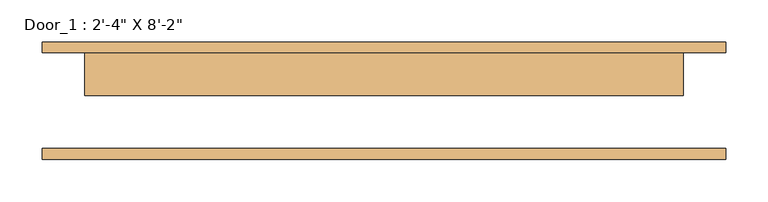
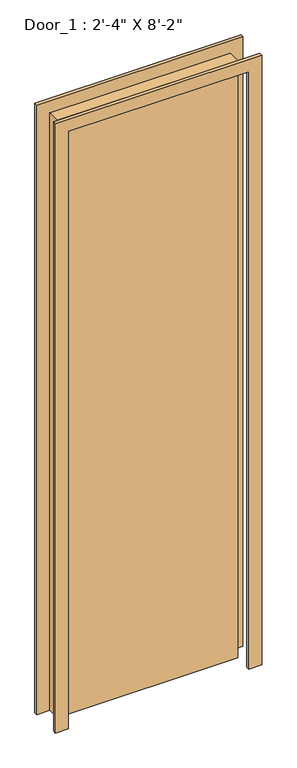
"""IFC4 building model written with IfcOpenShell, lengths in millimetres: door geometry."""

import ifcopenshell
import ifcopenshell.guid

model = None  # the IFC model being written
_history = None  # IfcOwnerHistory: only IFC2X3 demands one
_inside = {}  # id of a spatial element -> (the spatial element, [elements in it])
_under = {}  # id of a project, library or spatial element -> (it, [spatial elements below it])
_declared = {}  # id of a project -> (the project, [libraries it declares])
_typed = {}  # id of a type object -> (the type object, [elements of that type])
_made_of = {}  # id of a material, layer set ... -> (it, [elements and type objects made of it])


def new_model(schema):
    """Start an empty IFC model of exactly this schema.

    Asked for "IFC4X3", IfcOpenShell would pick the latest addendum, in which some entities
    have other attributes; the version numbers below select the first issue.
    IFC2X3 requires an IfcOwnerHistory on every rooted entity: one is made here for all.
    """
    global model, _history
    if schema == "IFC4X3":
        model = ifcopenshell.file(schema_version=(4, 3, 0, 0))
    else:
        model = ifcopenshell.file(schema=schema)
    _inside.clear()
    _under.clear()
    _declared.clear()
    _typed.clear()
    _made_of.clear()
    _history = None
    if model.schema == "IFC2X3":
        org = make("IfcOrganization", Name="unknown")
        user = make(
            "IfcPersonAndOrganization",
            ThePerson=make("IfcPerson", FamilyName="unknown"),
            TheOrganization=org,
        )
        app = make(
            "IfcApplication",
            ApplicationDeveloper=org,
            Version="unknown",
            ApplicationFullName="unknown",
            ApplicationIdentifier="unknown",
        )
        _history = make(
            "IfcOwnerHistory",
            OwningUser=user,
            OwningApplication=app,
            ChangeAction="ADDED",
            CreationDate=0,
        )
    return model


def make(cls, **values):
    """One entity of the class cls with the attributes given. An attribute that is None is left unset."""
    return model.create_entity(
        cls, **{name: value for name, value in values.items() if value is not None}
    )


def rooted(cls, **values):
    """An entity with a GlobalId (a new one), such as an element, a storey or a relation."""
    return make(cls, GlobalId=ifcopenshell.guid.new(), OwnerHistory=_history, **values)


def si_unit(unit_type, name, prefix=None):
    """IfcSIUnit, for example si_unit("LENGTHUNIT", "METRE", prefix="MILLI")."""
    return make("IfcSIUnit", UnitType=unit_type, Prefix=prefix, Name=name)


def assignment(units):
    """IfcUnitAssignment: the units of a project."""
    return None if units is None else make("IfcUnitAssignment", Units=units)


def point(xyz):
    """IfcCartesianPoint."""
    return None if xyz is None else make("IfcCartesianPoint", Coordinates=xyz)


def direction(xyz):
    """IfcDirection."""
    return None if xyz is None else make("IfcDirection", DirectionRatios=xyz)


def frame(location, z_axis=None, x_axis=None):
    """IfcAxis2Placement3D, a coordinate frame: its origin and axes. An axis left out is left unset."""
    return make(
        "IfcAxis2Placement3D",
        Location=point(location),
        Axis=direction(z_axis),
        RefDirection=direction(x_axis),
    )


def origin():
    """The frame at (0, 0, 0) with its axes left unset."""
    return frame((0.0, 0.0, 0.0))


def origin_with_axes():
    """The frame at (0, 0, 0) with the z axis (0, 0, 1) and the x axis (1, 0, 0) written out."""
    return frame((0.0, 0.0, 0.0), z_axis=(0.0, 0.0, 1.0), x_axis=(1.0, 0.0, 0.0))


def place(relative_to, where):
    """IfcLocalPlacement: puts the frame where relative to a parent placement (None: the world)."""
    return make(
        "IfcLocalPlacement", PlacementRelTo=relative_to, RelativePlacement=where
    )


def context(
    kind, dimensions, precision=None, world=None, true_north=None, identifier=None
):
    """IfcGeometricRepresentationContext, for example the 3D "Model" context."""
    return make(
        "IfcGeometricRepresentationContext",
        ContextIdentifier=identifier,
        ContextType=kind,
        CoordinateSpaceDimension=dimensions,
        Precision=precision,
        WorldCoordinateSystem=world,
        TrueNorth=true_north,
    )


def project(units=None, contexts=None):
    """IfcProject with its units and contexts."""
    return rooted(
        "IfcProject",
        Name="project",
        RepresentationContexts=contexts,
        UnitsInContext=assignment(units),
    )


def spatial(cls, under=None, at=None, **own):
    """A site, building, storey or space (cls), placed at a placement, below another one or the project."""
    s = rooted(cls, ObjectPlacement=at, **own)
    if under is not None:
        _under.setdefault(under.id(), (under, []))[1].append(s)
    return s


def polyline(points):
    """IfcPolyline through the points."""
    return make("IfcPolyline", Points=[point(p) for p in points])


def outline(outer, holes=None, kind="AREA"):
    """IfcArbitraryClosedProfileDef: a profile drawn as a closed curve; with holes, ...WithVoids."""
    if holes is None:
        return make("IfcArbitraryClosedProfileDef", ProfileType=kind, OuterCurve=outer)
    return make(
        "IfcArbitraryProfileDefWithVoids",
        ProfileType=kind,
        OuterCurve=outer,
        InnerCurves=holes,
    )


def extrude(swept, where, along, depth):
    """IfcExtrudedAreaSolid: the profile swept, set in the frame where, extruded along a direction by depth."""
    return make(
        "IfcExtrudedAreaSolid",
        SweptArea=swept,
        Position=where,
        ExtrudedDirection=direction(along),
        Depth=depth,
    )


def shape(context_of_items, identifier, shape_type, items):
    """IfcShapeRepresentation: the items that make up one representation, for example the "Body"."""
    return make(
        "IfcShapeRepresentation",
        ContextOfItems=context_of_items,
        RepresentationIdentifier=identifier,
        RepresentationType=shape_type,
        Items=items,
    )


def source(mapping_origin, context_of_items, identifier, shape_type, items):
    """IfcRepresentationMap: a shape defined once, which mapped items show again and again."""
    return make(
        "IfcRepresentationMap",
        MappingOrigin=mapping_origin,
        MappedRepresentation=shape(context_of_items, identifier, shape_type, items),
    )


def transform(
    local_origin,
    x_axis=None,
    y_axis=None,
    z_axis=None,
    scale=None,
    scale2=None,
    scale3=None,
    uniform=True,
):
    """IfcCartesianTransformationOperator3D, or its non-uniform kind. x_axis, y_axis, z_axis: its Axis1, 2, 3."""
    if uniform:
        return make(
            "IfcCartesianTransformationOperator3D",
            Axis1=direction(x_axis),
            Axis2=direction(y_axis),
            LocalOrigin=point(local_origin),
            Scale=scale,
            Axis3=direction(z_axis),
        )
    return make(
        "IfcCartesianTransformationOperator3DnonUniform",
        Axis1=direction(x_axis),
        Axis2=direction(y_axis),
        LocalOrigin=point(local_origin),
        Scale=scale,
        Axis3=direction(z_axis),
        Scale2=scale2,
        Scale3=scale3,
    )


def mapped(mapping_source, mapping_target):
    """IfcMappedItem: shows the shape of a source again, moved by a transform."""
    return make(
        "IfcMappedItem", MappingSource=mapping_source, MappingTarget=mapping_target
    )


def made_of(thing, what):
    """Note that an element or type object is made of a material, layer set ...; save() writes the relation."""
    if what is not None:
        _made_of.setdefault(what.id(), (what, []))[1].append(thing)
    return thing


def element(
    cls,
    number,
    at=None,
    inside=None,
    cuts=None,
    type_object=None,
    material=None,
    context=None,
    identifier="Body",
    shape_type=None,
    held_by="IfcProductDefinitionShape",
    body=None,
    shapes=None,
    **own,
):
    """One element of the class cls, such as IfcWall. Its Tag is "e" and its number.

    at: its placement. inside: the storey or other place that contains it. cuts: it is an
    opening in that element (IfcRelVoidsElement). A single representation is given by context,
    identifier, shape_type and body (its items); several are given by shapes. held_by: the class
    of the entity that holds the representations. save() writes the other relations.
    """
    e = rooted(cls, Tag="e%d" % number, ObjectPlacement=at, **own)
    if body is not None:
        shapes = [shape(context, identifier, shape_type, body)]
    if shapes is not None:
        e.Representation = make(held_by, Representations=shapes)
    if inside is not None:
        _inside.setdefault(inside.id(), (inside, []))[1].append(e)
    if cuts is not None:
        rooted(
            "IfcRelVoidsElement", RelatingBuildingElement=cuts, RelatedOpeningElement=e
        )
    if type_object is not None:
        _typed.setdefault(type_object.id(), (type_object, []))[1].append(e)
    return made_of(e, material)


def aggregate(whole, parts):
    """IfcRelAggregates: a whole, such as a stair, and the parts it consists of."""
    return rooted("IfcRelAggregates", RelatingObject=whole, RelatedObjects=parts)


def save(model, path):
    """Write the relations noted so far, then the file.

    IfcRelAggregates (storeys below a building ...), IfcRelContainedInSpatialStructure (elements
    in a storey), IfcRelDefinesByType, IfcRelAssociatesMaterial and IfcRelDeclares: one each for
    every whole, place, type object, material and project.
    """
    for whole, parts in _under.values():
        aggregate(whole, parts)
    for where, things in _inside.values():
        rooted(
            "IfcRelContainedInSpatialStructure",
            RelatedElements=things,
            RelatingStructure=where,
        )
    for kind, things in _typed.values():
        rooted("IfcRelDefinesByType", RelatedObjects=things, RelatingType=kind)
    for what, things in _made_of.values():
        rooted("IfcRelAssociatesMaterial", RelatedObjects=things, RelatingMaterial=what)
    for by, libraries in _declared.values():
        rooted("IfcRelDeclares", RelatingContext=by, RelatedDefinitions=libraries)
    model.write(path)


def door_85cdc329(model_context):
    return source(origin(), model_context, "Body", "SweptSolid", [
        extrude(outline(polyline([(2540.0, -406.4), (0.0, -406.4), (0.0, -355.6), (2489.2, -355.6), (2489.2, 355.6), (0.0, 355.6), (0.0, 406.4), (2540.0, 406.4), (2540.0, -406.4)])), frame((0.0, 57.15, 0.0), z_axis=(0.0, 1.0, 0.0), x_axis=(0.0, 0.0, 1.0)), (0.0, 0.0, 1.0), 12.7),
        extrude(outline(polyline([(2540.0, 406.4), (2540.0, -406.4), (0.0, -406.4), (0.0, -355.6), (2489.2, -355.6), (2489.2, 355.6), (0.0, 355.6), (0.0, 406.4), (2540.0, 406.4)])), frame((0.0, -69.85, 0.0), z_axis=(0.0, 1.0, 0.0), x_axis=(0.0, 0.0, 1.0)), (0.0, 0.0, 1.0), 12.7),
        extrude(outline(polyline([(355.6, 6.35), (-355.6, 6.35), (-355.6, 57.15), (355.6, 57.15), (355.6, 6.35)])), origin_with_axes(), (0.0, 0.0, 1.0), 2489.2),
    ])


if __name__ == "__main__":
    model = new_model("IFC4")
    model_context = context("Model", 3, world=origin())
    ifc_project = project(units=[si_unit("LENGTHUNIT", "METRE", prefix="MILLI")], contexts=[model_context])
    site = spatial("IfcSite", under=ifc_project)
    building = spatial("IfcBuilding", under=site)
    placement = place(None, origin())
    door_shape = door_85cdc329(model_context)
    element("IfcDoor", 1, ObjectType="Door_1 : 2'-4\" X 8'-2\"", at=placement, inside=building, context=model_context, shape_type="MappedRepresentation", body=[
        mapped(door_shape, transform((0.0, 0.0, 0.0), x_axis=(1.0, 0.0, 0.0), y_axis=(0.0, 1.0, 0.0), z_axis=(0.0, 0.0, 1.0))),
    ])
    save(model, "model.ifc")
